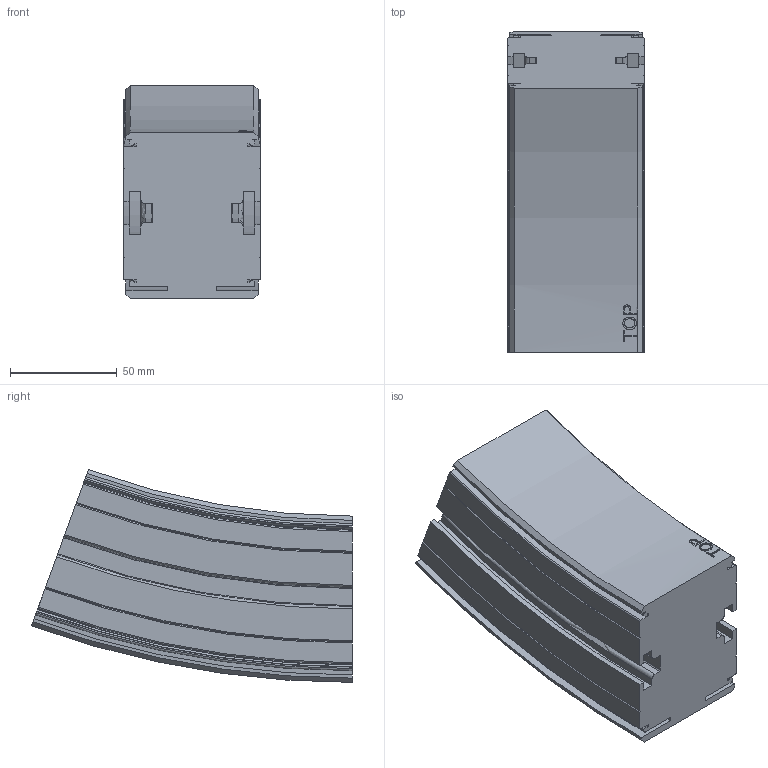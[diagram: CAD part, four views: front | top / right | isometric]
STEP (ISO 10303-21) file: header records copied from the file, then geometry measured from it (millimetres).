
FILE_DESCRIPTION(/* description */ ('VERTIKALKURVA S620 R400'),/* implementation_level */ '2;1');
FILE_NAME(/* name */ '\\carryline.intra\privat\users\mathias\Desktop\Tillfälliga filer\620-5645+620-2000-UPP-01.stp',/* time_stamp */ '2018-12-05T16:03:26+01:00',/* author */ ('MD'),/* organization */ ('CARRYLINE'),/* preprocessor_version */ 'ST-DEVELOPER v17',/* originating_system */ 'Autodesk Inventor 2018',/* authorisation */ '');
FILE_SCHEMA (('AUTOMOTIVE_DESIGN { 1 0 10303 214 3 1 1 }'));
Length unit declared in the file: millimetre
Products named in the file (1): 620-5645+620-2000-UPP-01
Bounding box: 64 x 150.49 x 99.83 mm (x, y, z)
Volume: 624055.3 mm3; surface area: 76994.6 mm2
Topology: 1 solids, 1 shells, 149 faces, 426 edges, 284 vertices
Faces by surface type: plane 54, cylinder 37, torus 28, cone 16, bspline 14
Entity records: 9533 total; most frequent: CARTESIAN_POINT 5513, ORIENTED_EDGE 852, DIRECTION 836, EDGE_CURVE 426, AXIS2_PLACEMENT_3D 315, VERTEX_POINT 284, LINE 206, VECTOR 206
